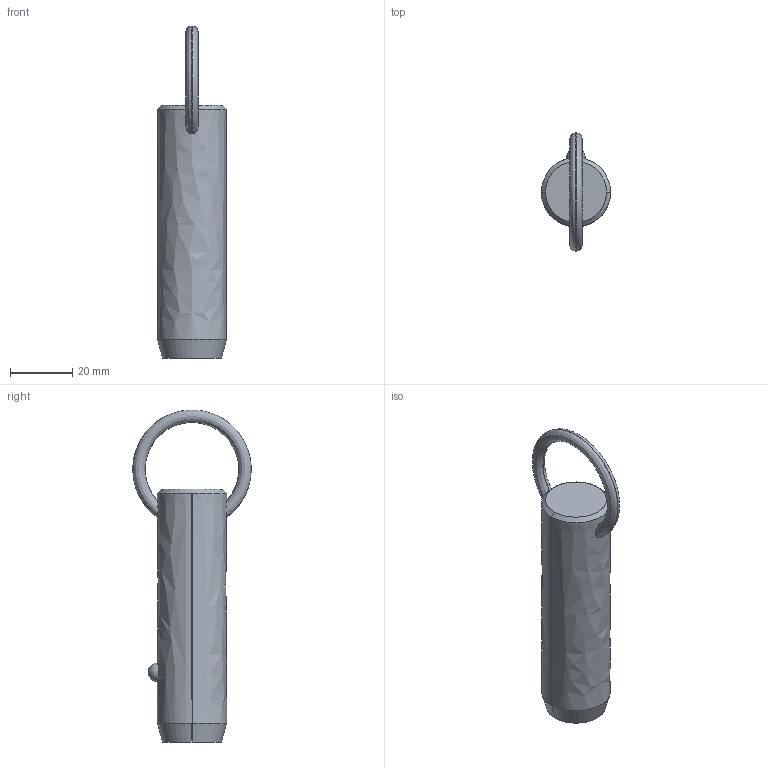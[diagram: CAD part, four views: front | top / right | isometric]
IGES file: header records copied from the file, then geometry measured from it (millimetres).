
Start section: SolidWorks IGES file using analytic representation for surfaces
Global section: file name: C:\Users\liam_\OneDrive\Documents\WORK\Work for WixRoyd\Job Files\J-00019 - Matt Davis CAD Checking\04. CAD Drawings\automotion20190605\P1250.2_v2\P1250.2_v2_20190729_IGES\P1250.087-170.igs; native system: SolidWorks 2017; preprocessor: SolidWorks 2017; author: liam_; date: 190730.000539; units: millimetre
Bounding box: 22.2 x 38.1 x 106.7 mm (x, y, z)
Surface area: 7313.9 mm2 (no closed solid volume)
Topology: 0 solids, 0 shells, 12 faces, 302 edges, 300 vertices
Faces by surface type: revolution 8, bspline 4
